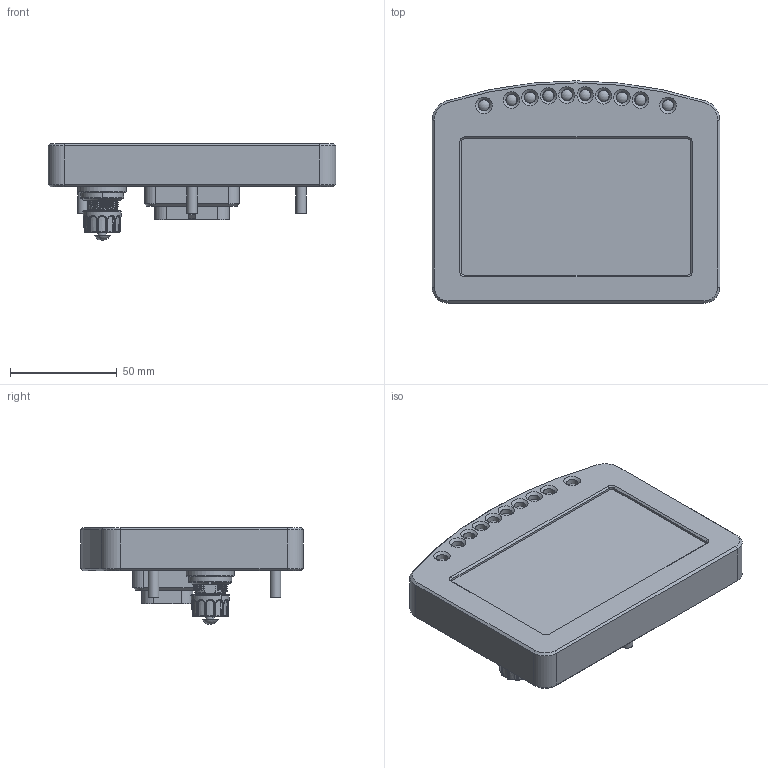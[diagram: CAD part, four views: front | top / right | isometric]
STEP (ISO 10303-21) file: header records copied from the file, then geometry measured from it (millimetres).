
FILE_DESCRIPTION(/* description */ ('Alibre Inc.'),/* implementation_level */ '2;1');
FILE_NAME(/* name */ 'export0',/* time_stamp */ '2015-11-23T16:14:39+11:00',/* author */ (''),/* organization */ (''),/* preprocessor_version */ 'ST-DEVELOPER v14',/* originating_system */ 'Alibre',/* authorisation */ '');
FILE_SCHEMA (('AUTOMOTIVE_DESIGN'));
Length unit declared in the file: centimetre
Products named in the file (7): C-1447232-23-3
Bounding box: 134.5 x 103.9 x 45.3 mm (x, y, z)
Volume: 264377.8 mm3; surface area: 58710.7 mm2
Topology: 38 solids, 38 shells, 1839 faces, 7122 edges, 5437 vertices
Faces by surface type: plane 939, cylinder 613, bspline 149, cone 53, torus 36, sphere 26, revolution 23
Full cylindrical faces by diameter (mm): 5 x13, 5.4 x10, 22.5 x1
Entity records: 111546 total; most frequent: CARTESIAN_POINT 50133, ORIENTED_EDGE 14090, DIRECTION 11977, EDGE_CURVE 7045, VERTEX_POINT 5419, AXIS2_PLACEMENT_3D 4996, CIRCLE 3306, VECTOR 2928
